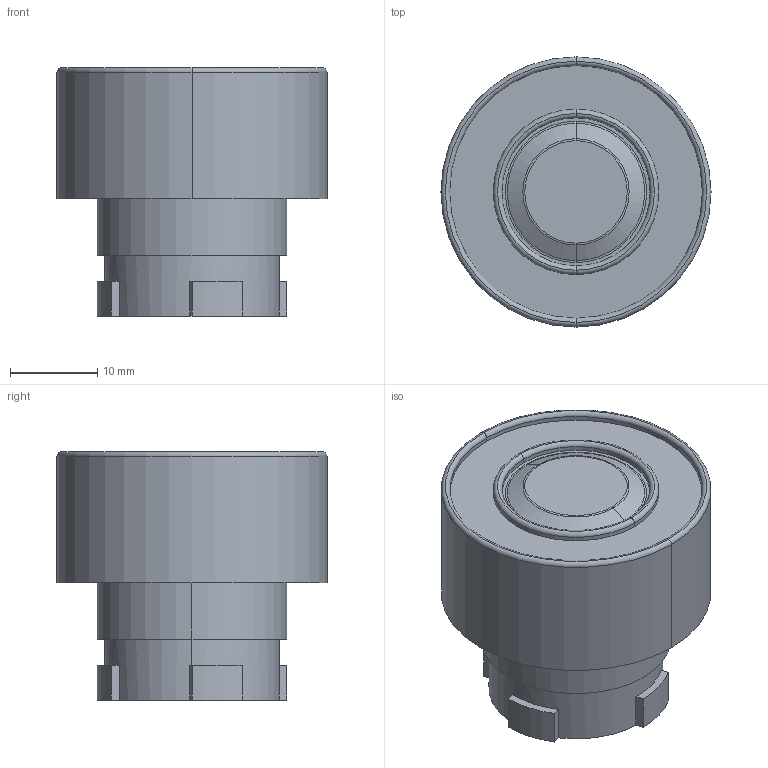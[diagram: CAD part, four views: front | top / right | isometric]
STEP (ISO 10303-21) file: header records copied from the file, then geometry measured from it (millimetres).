
FILE_DESCRIPTION (( 'STEP AP214' ), '1' );
FILE_NAME ('3D 斁麧錪 MTB2-BP4.STEP', '2017-05-19T13:53:04', ( 'adm' ), ( 'MICROSOFT' ), 'SwSTEP 2.0', 'SolidWorks 2011', '' );
FILE_SCHEMA (( 'AUTOMOTIVE_DESIGN' ));
Length unit declared in the file: millimetre
Products named in the file (3): 扻羰騶BP4; MTB2-BP4 Ãîëîâêà êíîïêè â êîæóõå; 3D 斁麧錪 MTB2-BP4
Assembly tree (2 placements, depth 2):
  3D 斁麧錪 MTB2-BP4
    MTB2-BP4 Ãîëîâêà êíîïêè â êîæóõå
    扻羰騶BP4
Bounding box: 31 x 31 x 28.5 mm (x, y, z)
Volume: 11567.8 mm3; surface area: 11636 mm2
Topology: 2 solids, 2 shells, 114 faces, 262 edges, 169 vertices
Faces by surface type: plane 49, cylinder 46, torus 12, cone 7
Entity records: 4229 total; most frequent: DIRECTION 637, CARTESIAN_POINT 574, ORIENTED_EDGE 524, AXIS2_PLACEMENT_3D 264, EDGE_CURVE 262, VERTEX_POINT 169, CIRCLE 145, EDGE_LOOP 131
